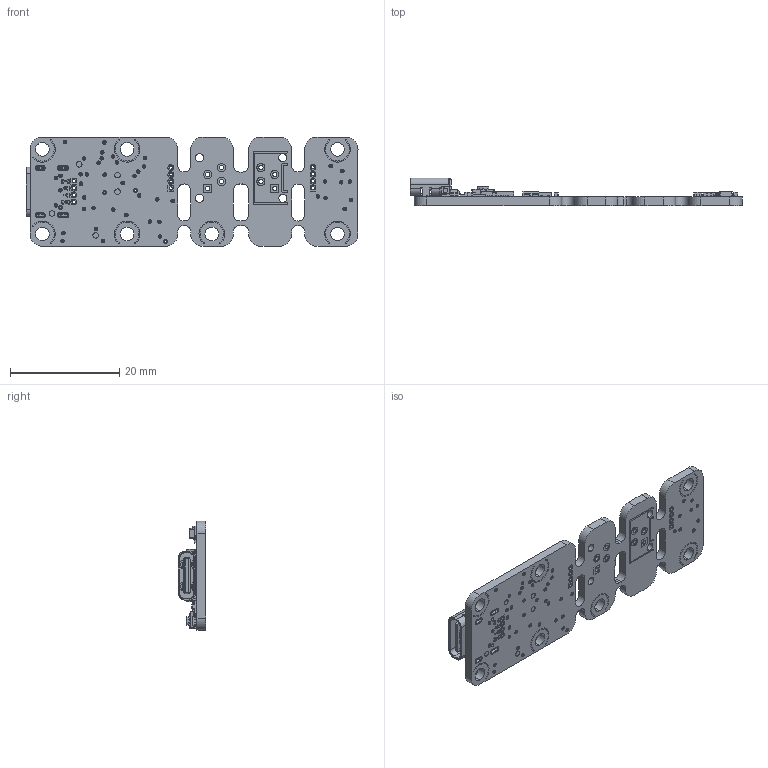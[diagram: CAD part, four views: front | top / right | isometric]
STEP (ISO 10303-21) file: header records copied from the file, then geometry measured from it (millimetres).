
FILE_DESCRIPTION (( 'STEP AP214' ), '1' );
FILE_NAME ('YALTMK2C.STEP', '2026-02-02T08:24:00', ( '' ), ( '' ), 'SwSTEP 2.0', 'SolidWorks 2008', '' );
FILE_SCHEMA (( 'AUTOMOTIVE_DESIGN' ));
Length unit declared in the file: millimetre
Products named in the file (26): YLED; C11; C2; FLASH1; C18; R26; USB1; YALTMK2C; SENS2; sens1; PCB; R4; R6; R1; REG2; R8; U2; REG1; R12; PVSS; SW1; R2; T1; C16; U1; C19
Assembly tree (34 placements, depth 2):
  YALTMK2C
    C2
    U2
    C11  x9
    USB1
    SW1
    U1
    R2
    C19
    sens1
    R6
    R8  x2
    REG2
    PCB
    SENS2
    C18
    R26  x2
    C16
    REG1
    T1
    FLASH1
    R1
    YLED
    R4
    R12
  PVSS
Bounding box: 60.75 x 5.07 x 20.13 mm (x, y, z)
Volume: 1850.9 mm3; surface area: 3694.6 mm2
Topology: 37 solids, 37 shells, 6110 faces, 15948 edges, 10351 vertices
Faces by surface type: plane 3821, cylinder 1549, bspline 609, sphere 108, cone 12, torus 11
Entity records: 255934 total; most frequent: CARTESIAN_POINT 63639, ORIENTED_EDGE 29372, DIRECTION 26418, EDGE_CURVE 14686, VECTOR 10698, LINE 10698, VERTEX_POINT 9683, AXIS2_PLACEMENT_3D 7860
